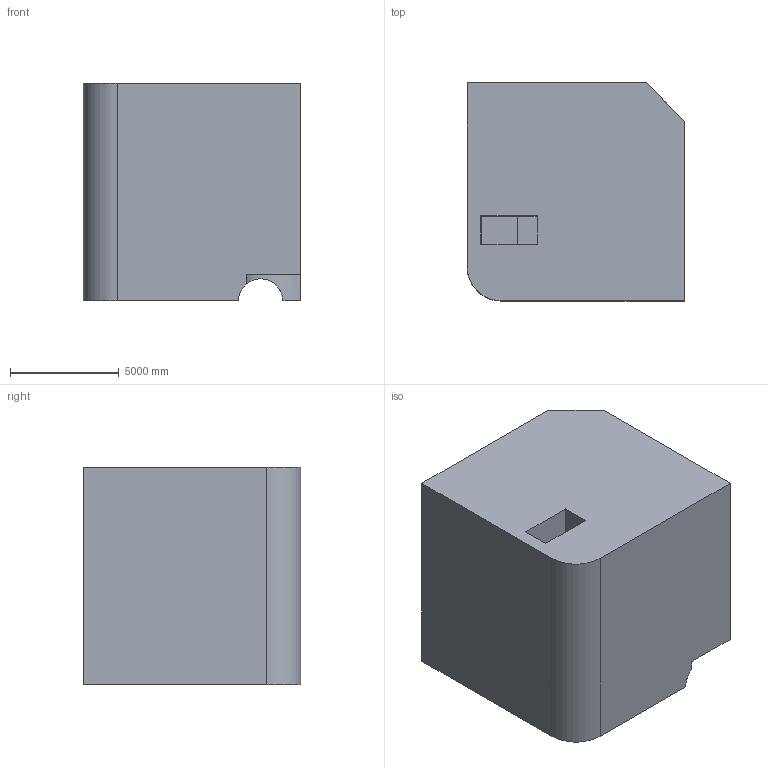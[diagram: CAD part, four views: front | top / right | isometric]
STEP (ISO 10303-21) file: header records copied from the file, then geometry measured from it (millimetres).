
FILE_DESCRIPTION (( 'STEP AP203' ), '1' );
FILE_NAME ('1669.STEP', '2022-08-26T13:19:36', ( 'user' ), ( '' ), 'SwSTEP 2.0', 'SolidWorks 2021', '' );
FILE_SCHEMA (( 'CONFIG_CONTROL_DESIGN' ));
Length unit declared in the file: centimetre
Products named in the file (1): 1669
Bounding box: 10000 x 10000 x 10000 mm (x, y, z)
Volume: 850135073687.5 mm3; surface area: 775088557.7 mm2
Topology: 1 solids, 1 shells, 27 faces, 72 edges, 48 vertices
Faces by surface type: plane 22, cylinder 5
Entity records: 1032 total; most frequent: CARTESIAN_POINT 268, ORIENTED_EDGE 144, DIRECTION 136, EDGE_CURVE 72, LINE 60, VECTOR 60, VERTEX_POINT 48, AXIS2_PLACEMENT_3D 38
